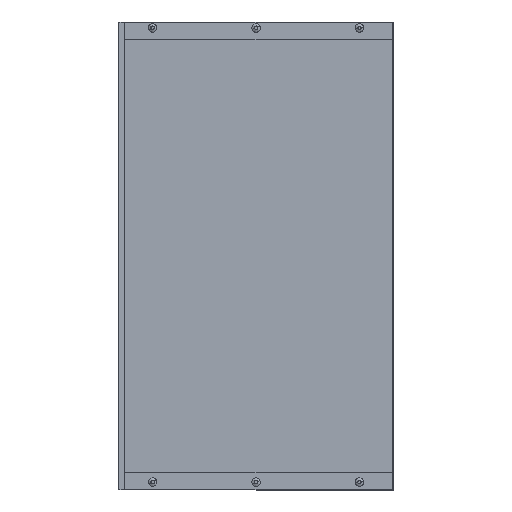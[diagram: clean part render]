
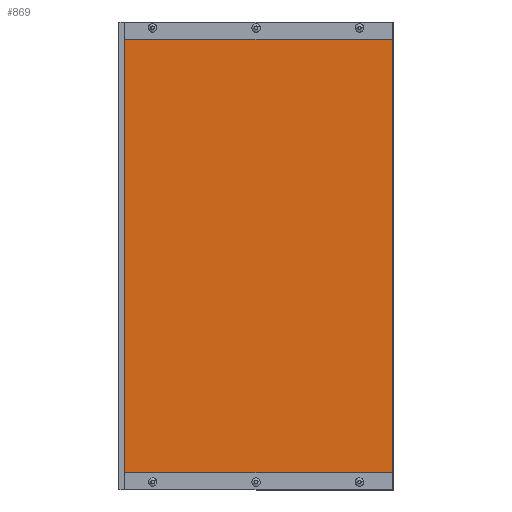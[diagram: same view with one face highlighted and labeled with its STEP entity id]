
A CAD part, front view. The second image highlights one B-rep face of the part: STEP entity #869.
In plain terms, the highlighted planar face has unit normal (0, -1, 0).
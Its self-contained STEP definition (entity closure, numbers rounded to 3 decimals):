
#75 = PLANE ( 'NONE',  #4091 ) ;
#149 = DIRECTION ( 'NONE',  ( 0., 0., 1. ) ) ;
#280 = VERTEX_POINT ( 'NONE', #520 ) ;
#304 = EDGE_CURVE ( 'NONE', #865, #280, #1933, .T. ) ;
#362 = EDGE_CURVE ( 'NONE', #280, #495, #3802, .T. ) ;
#495 = VERTEX_POINT ( 'NONE', #2896 ) ;
#505 = DIRECTION ( 'NONE',  ( 0., 0., 1. ) ) ;
#520 = CARTESIAN_POINT ( 'NONE',  ( 388.6, 61.1, 654. ) ) ;
#827 = DIRECTION ( 'NONE',  ( 0., 1., 0. ) ) ;
#865 = VERTEX_POINT ( 'NONE', #3332 ) ;
#869 = ADVANCED_FACE ( 'NONE', ( #2624 ), #75, .F. ) ;
#1206 = CARTESIAN_POINT ( 'NONE',  ( -6.6, 61.1, 679. ) ) ;
#1372 = DIRECTION ( 'NONE',  ( -1., 0., 0. ) ) ;
#1585 = ORIENTED_EDGE ( 'NONE', *, *, #4364, .T. ) ;
#1622 = ORIENTED_EDGE ( 'NONE', *, *, #304, .T. ) ;
#1688 = EDGE_CURVE ( 'NONE', #865, #2502, #3640, .T. ) ;
#1933 = LINE ( 'NONE', #2352, #2216 ) ;
#2216 = VECTOR ( 'NONE', #149, 1000. ) ;
#2352 = CARTESIAN_POINT ( 'NONE',  ( 388.6, 61.1, 679. ) ) ;
#2365 = VECTOR ( 'NONE', #3006, 1000. ) ;
#2502 = VERTEX_POINT ( 'NONE', #4320 ) ;
#2517 = DIRECTION ( 'NONE',  ( -1., 0., 0. ) ) ;
#2621 = EDGE_LOOP ( 'NONE', ( #1585, #3255, #1622, #2992 ) ) ;
#2624 = FACE_OUTER_BOUND ( 'NONE', #2621, .T. ) ;
#2896 = CARTESIAN_POINT ( 'NONE',  ( -6.6, 61.1, 654. ) ) ;
#2962 = VECTOR ( 'NONE', #1372, 1000. ) ;
#2992 = ORIENTED_EDGE ( 'NONE', *, *, #362, .T. ) ;
#3006 = DIRECTION ( 'NONE',  ( 0., 0., -1. ) ) ;
#3156 = CARTESIAN_POINT ( 'NONE',  ( 0., 61.1, 654. ) ) ;
#3173 = VECTOR ( 'NONE', #2517, 1000. ) ;
#3255 = ORIENTED_EDGE ( 'NONE', *, *, #1688, .F. ) ;
#3332 = CARTESIAN_POINT ( 'NONE',  ( 388.6, 61.1, 25. ) ) ;
#3640 = LINE ( 'NONE', #4331, #3173 ) ;
#3696 = CARTESIAN_POINT ( 'NONE',  ( -8., 61.1, 679. ) ) ;
#3802 = LINE ( 'NONE', #3156, #2962 ) ;
#4091 = AXIS2_PLACEMENT_3D ( 'NONE', #3696, #827, #505 ) ;
#4320 = CARTESIAN_POINT ( 'NONE',  ( -6.6, 61.1, 25. ) ) ;
#4331 = CARTESIAN_POINT ( 'NONE',  ( -8., 61.1, 25. ) ) ;
#4364 = EDGE_CURVE ( 'NONE', #495, #2502, #4493, .T. ) ;
#4493 = LINE ( 'NONE', #1206, #2365 ) ;
